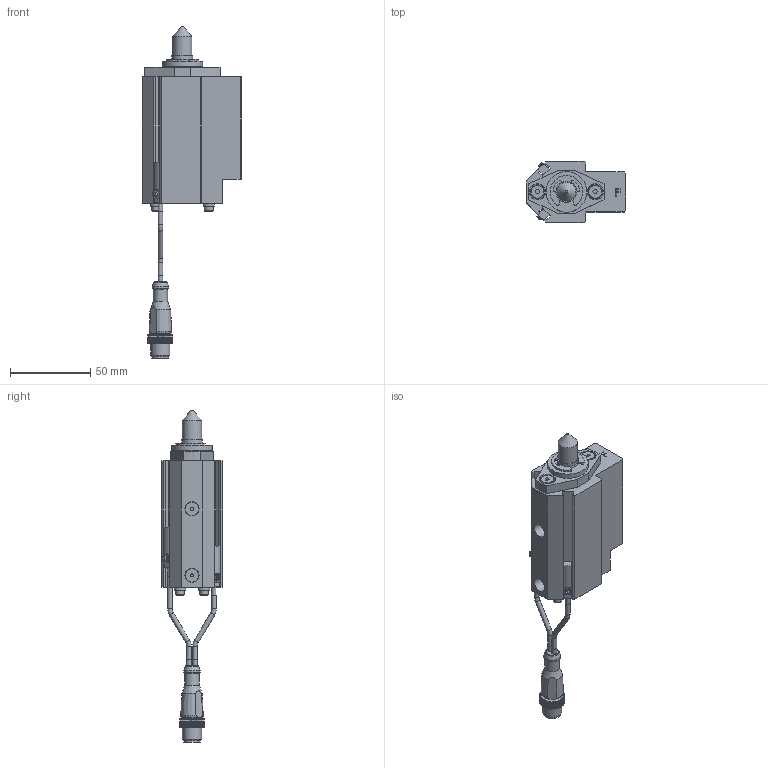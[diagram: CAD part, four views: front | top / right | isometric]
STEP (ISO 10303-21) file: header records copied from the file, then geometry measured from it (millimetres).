
FILE_DESCRIPTION(/* description */ ('NAAMS FLOATING MICRO PIN'),/* implementation_level */ '2;1');
FILE_NAME(/* name */ 'C:\Vault Workspace\CAD\Welker\Shot Pin\NMP\NMP120012AFNL3.stp',/* time_stamp */ '2021-01-27T10:10:49-05:00',/* author */ ('WELKER'),/* organization */ (''),/* preprocessor_version */ 'ST-DEVELOPER v18.1',/* originating_system */ 'Autodesk Inventor 2020',/* authorisation */ '');
FILE_SCHEMA (('AUTOMOTIVE_DESIGN { 1 0 10303 214 3 1 1 }'));
Length unit declared in the file: millimetre
Products named in the file (16): NMPL01; NMP L3 SWITCH; L3 Connector; L3 Sensor 1; L3 Sensor 2; L3 Sensor cable; L3 Sensor cable 2; M3X0.5-8 SHCS; NL3; NMPE06; NMPE03; NMPE05-DIA-LENGTH; 985432A218; NMPE01F-PORT; RMPE02; M5X5 SHOULDER
Assembly tree (22 placements, depth 3):
  NMPL01
    NMP L3 SWITCH
      L3 Connector
      L3 Sensor 1
      L3 Sensor 2
      L3 Sensor cable
      L3 Sensor cable 2
    M3X0.5-8 SHCS  x4
    NL3  x4
    NMPE06
    NMPE03
    NMPE05-DIA-LENGTH
    985432A218
    NMPE01F-PORT
    RMPE02
    M5X5 SHOULDER  x2
Bounding box: 62 x 38.1 x 207.12 mm (x, y, z)
Volume: 113071.3 mm3; surface area: 44853.4 mm2
Topology: 21 solids, 21 shells, 746 faces, 2022 edges, 1352 vertices
Faces by surface type: plane 551, cylinder 144, cone 35, torus 11, sphere 3, bspline 2
Full cylindrical faces by diameter (mm): 2 x2, 2.459 x4, 2.9 x10, 3 x5, 3.242 x2, 3.4 x4, 4 x2, 5 x6, 5.5 x4, 7 x4, 8 x2, 8.3 x2, 8.376 x2, 9 x3, 10 x3, 10.4 x1, 10.5 x1, 12 x2, 13 x3, 16 x2, 19.05 x3, 21 x1, 22.5 x1, 23.672 x1, 24 x1, 25.4 x1, 25.5 x1, 26.5 x1, 28.677 x1, 29.21 x1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
Entity records: 22784 total; most frequent: CARTESIAN_POINT 4167, ORIENTED_EDGE 3738, DIRECTION 3725, EDGE_CURVE 1869, LINE 1381, VECTOR 1381, VERTEX_POINT 1257, AXIS2_PLACEMENT_3D 1172
